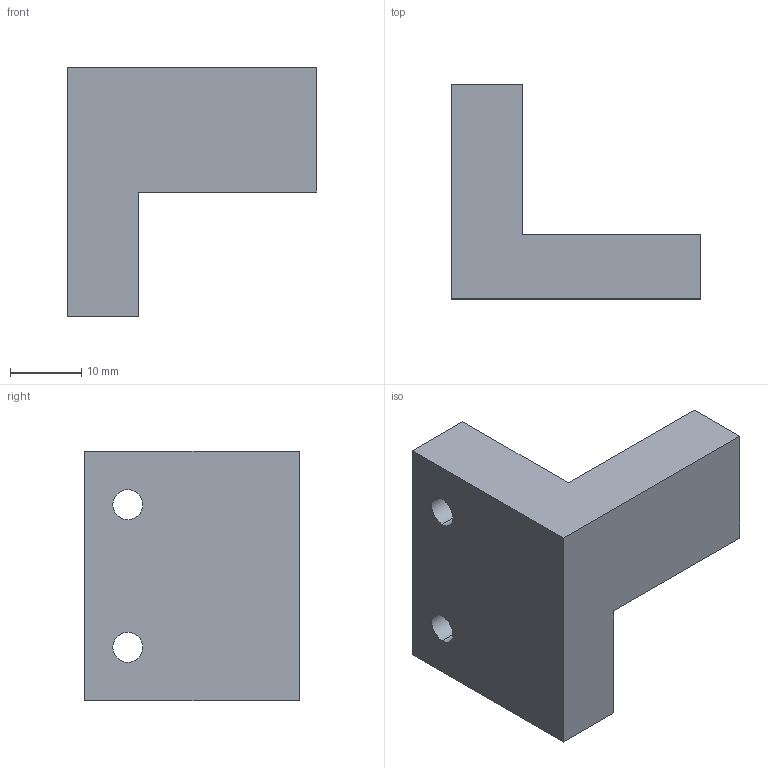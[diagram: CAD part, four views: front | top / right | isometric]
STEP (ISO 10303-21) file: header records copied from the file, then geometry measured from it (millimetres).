
FILE_DESCRIPTION (( 'STEP AP203' ), '1' );
FILE_NAME ('GHU 20 DOIGT.STEP', '2012-12-14T10:33:35', ( '' ), ( '' ), 'SwSTEP 2.0', 'SolidWorks 2010', '' );
FILE_SCHEMA (( 'CONFIG_CONTROL_DESIGN' ));
Length unit declared in the file: millimetre
Products named in the file (1): GHU 20 DOIGT
Bounding box: 35 x 30 x 35 mm (x, y, z)
Volume: 14160.4 mm3; surface area: 4933.5 mm2
Topology: 1 solids, 1 shells, 13 faces, 33 edges, 22 vertices
Faces by surface type: plane 9, cylinder 4
Entity records: 480 total; most frequent: CARTESIAN_POINT 69, DIRECTION 69, ORIENTED_EDGE 66, EDGE_CURVE 33, VECTOR 25, LINE 25, VERTEX_POINT 22, AXIS2_PLACEMENT_3D 22
